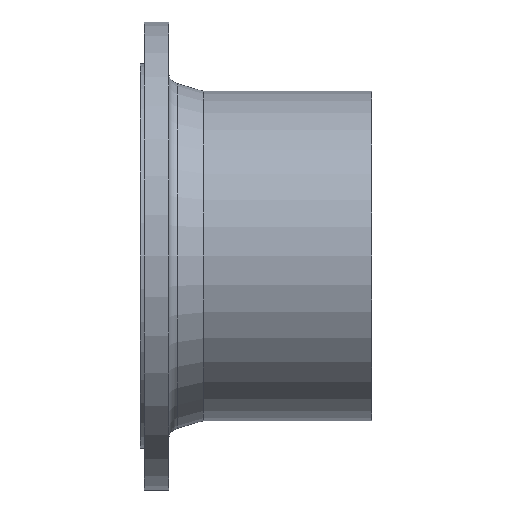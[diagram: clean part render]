
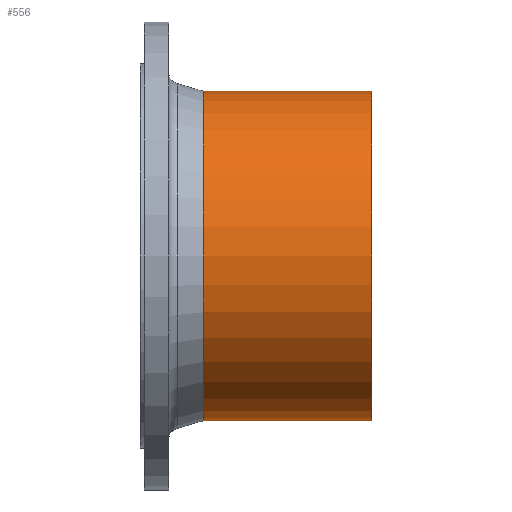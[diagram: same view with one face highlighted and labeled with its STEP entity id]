
A CAD part, front view. The second image highlights one B-rep face of the part: STEP entity #556.
In plain terms, the highlighted cylindrical face has radius 161.95 mm (diameter 323.9 mm), a full revolution.
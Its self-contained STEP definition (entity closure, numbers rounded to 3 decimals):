
#73=FACE_OUTER_BOUND('',#125,.T.);
#125=EDGE_LOOP('',(#508,#509,#510,#511,#512,#513));
#145=LINE('',#1010,#163);
#163=VECTOR('',#847,161.95);
#208=CIRCLE('',#637,161.95);
#209=CIRCLE('',#638,161.95);
#222=CIRCLE('',#659,161.95);
#223=CIRCLE('',#660,161.95);
#267=VERTEX_POINT('',#965);
#268=VERTEX_POINT('',#966);
#281=VERTEX_POINT('',#1006);
#282=VERTEX_POINT('',#1007);
#339=EDGE_CURVE('',#267,#268,#208,.T.);
#340=EDGE_CURVE('',#268,#267,#209,.T.);
#358=EDGE_CURVE('',#281,#282,#222,.T.);
#359=EDGE_CURVE('',#282,#281,#223,.T.);
#360=EDGE_CURVE('',#282,#268,#145,.T.);
#508=ORIENTED_EDGE('',*,*,#358,.F.);
#509=ORIENTED_EDGE('',*,*,#359,.F.);
#510=ORIENTED_EDGE('',*,*,#360,.T.);
#511=ORIENTED_EDGE('',*,*,#340,.T.);
#512=ORIENTED_EDGE('',*,*,#339,.T.);
#513=ORIENTED_EDGE('',*,*,#360,.F.);
#533=CYLINDRICAL_SURFACE('',#658,161.95);
#556=ADVANCED_FACE('',(#73),#533,.T.);
#637=AXIS2_PLACEMENT_3D('',#967,#794,#795);
#638=AXIS2_PLACEMENT_3D('',#968,#796,#797);
#658=AXIS2_PLACEMENT_3D('',#1005,#841,#842);
#659=AXIS2_PLACEMENT_3D('',#1008,#843,#844);
#660=AXIS2_PLACEMENT_3D('',#1009,#845,#846);
#794=DIRECTION('center_axis',(1.,0.,0.));
#795=DIRECTION('ref_axis',(0.,0.,-1.));
#796=DIRECTION('center_axis',(1.,0.,0.));
#797=DIRECTION('ref_axis',(0.,0.,-1.));
#841=DIRECTION('center_axis',(1.,0.,0.));
#842=DIRECTION('ref_axis',(0.,1.,0.));
#843=DIRECTION('center_axis',(1.,0.,0.));
#844=DIRECTION('ref_axis',(0.,1.,0.));
#845=DIRECTION('center_axis',(1.,0.,0.));
#846=DIRECTION('ref_axis',(0.,1.,0.));
#847=DIRECTION('',(-1.,0.,0.));
#965=CARTESIAN_POINT('',(-16.,161.95,0.));
#966=CARTESIAN_POINT('',(-16.,-161.95,0.));
#967=CARTESIAN_POINT('Origin',(-16.,0.,0.));
#968=CARTESIAN_POINT('Origin',(-16.,0.,0.));
#1005=CARTESIAN_POINT('Origin',(0.,0.,0.));
#1006=CARTESIAN_POINT('',(150.,161.95,0.));
#1007=CARTESIAN_POINT('',(150.,-161.95,0.));
#1008=CARTESIAN_POINT('Origin',(150.,0.,0.));
#1009=CARTESIAN_POINT('Origin',(150.,0.,0.));
#1010=CARTESIAN_POINT('',(0.,-161.95,0.));
